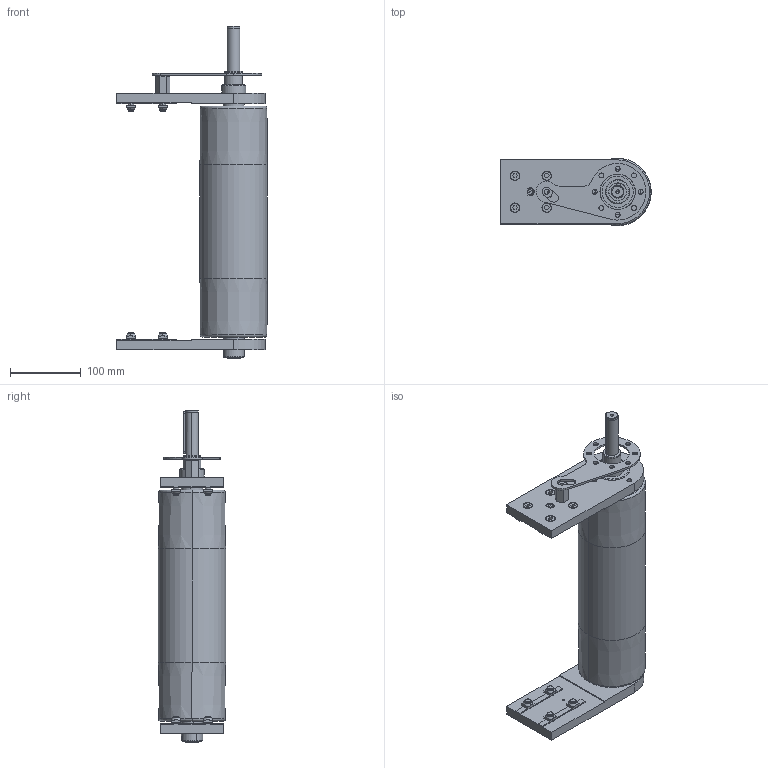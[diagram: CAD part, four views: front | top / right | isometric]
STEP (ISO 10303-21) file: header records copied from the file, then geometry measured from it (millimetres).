
FILE_DESCRIPTION (( 'STEP AP203' ), '1' );
FILE_NAME ('084.095.KDC.44.300.STEP', '2019-07-30T07:22:49', ( '' ), ( '' ), 'SwSTEP 2.0', 'SolidWorks 2018', '' );
FILE_SCHEMA (( 'CONFIG_CONTROL_DESIGN' ));
Length unit declared in the file: millimetre
Products named in the file (15): 084.802.019_084.802.019; 084.807.005; 084.812.001; 084.808.007_084.808.007; 084.810.003; 084.095.KDC.44.300; 084.301.000 VITI ALUSIC_084.301.003; Circlip DIN 471 - 30 x 1.5_Circlip DIN 471 - 30 x 1.5; 084.812.003; 084.816.102_084.816.107<A macchina>; 084.302.000 DADI ALUSIC 13x13_084.302.004; 084.802.034_084.802.034; 084.802.027; 084.808.006_084.808.002; CHIAVETTE_A 6x6x60 UNI 6604-69
Assembly tree (30 placements, depth 2):
  084.095.KDC.44.300
    084.802.027
    084.807.005
    084.812.001
    084.802.034_084.802.034
    084.301.000 VITI ALUSIC_084.301.003  x8
    084.302.000 DADI ALUSIC 13x13_084.302.004  x8
    084.816.102_084.816.107<A macchina>
    084.812.003
    084.808.007_084.808.007
    084.808.006_084.808.002
    084.810.003  x2
    084.802.019_084.802.019
    CHIAVETTE_A 6x6x60 UNI 6604-69
    Circlip DIN 471 - 30 x 1.5_Circlip DIN 471 - 30 x 1.5  x2
Bounding box: 212.5 x 95 x 468.5 mm (x, y, z)
Volume: 1319759.4 mm3; surface area: 537382.5 mm2
Topology: 35 solids, 36 shells, 863 faces, 2168 edges, 1407 vertices
Faces by surface type: plane 361, cylinder 301, torus 76, cone 68, bspline 48, sphere 9
Entity records: 20631 total; most frequent: CARTESIAN_POINT 4193, DIRECTION 3110, ORIENTED_EDGE 2940, EDGE_CURVE 1470, AXIS2_PLACEMENT_3D 1225, VERTEX_POINT 956, EDGE_LOOP 694, CIRCLE 663
